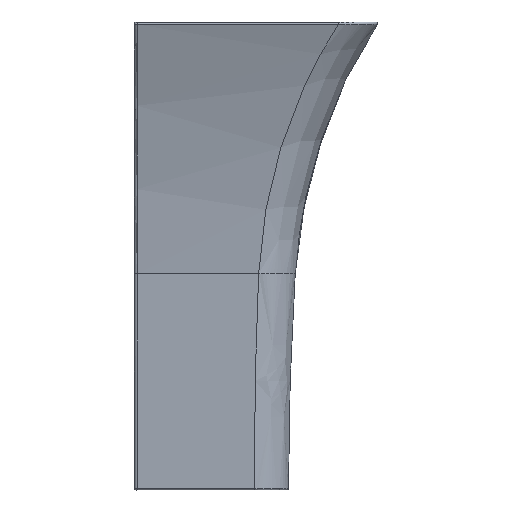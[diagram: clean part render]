
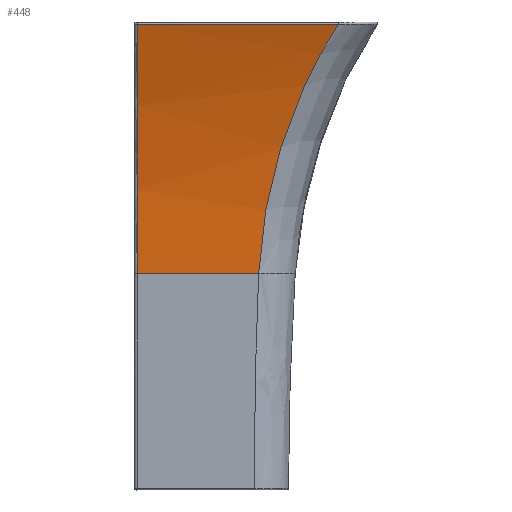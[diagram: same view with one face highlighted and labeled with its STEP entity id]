
A CAD part, left-side view. The second image highlights one B-rep face of the part: STEP entity #448.
In plain terms, the highlighted free-form (B-spline) face has degree [3, 1] with [12, 2] control points.
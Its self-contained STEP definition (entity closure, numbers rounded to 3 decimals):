
#168=B_SPLINE_SURFACE_WITH_KNOTS('',3,1,((#25247,#25248),(#25249,#25250),
(#25251,#25252),(#25253,#25254),(#25255,#25256),(#25257,#25258),(#25259,
#25260),(#25261,#25262),(#25263,#25264),(#25265,#25266),(#25267,#25268),
(#25269,#25270)),.UNSPECIFIED.,.F.,.F.,.F.,(4,2,2,2,2,4),(2,2),(0.,118.307,
236.613,354.92,414.073,473.226),(0.,
366.881),.UNSPECIFIED.);
#448=ADVANCED_FACE('',(#969),#168,.T.);
#969=FACE_OUTER_BOUND('',#1490,.T.);
#1490=EDGE_LOOP('',(#2819,#2820,#2821,#2822,#2823));
#2819=ORIENTED_EDGE('',*,*,#4774,.T.);
#2820=ORIENTED_EDGE('',*,*,#4750,.F.);
#2821=ORIENTED_EDGE('',*,*,#4748,.T.);
#2822=ORIENTED_EDGE('',*,*,#4523,.T.);
#2823=ORIENTED_EDGE('',*,*,#4781,.T.);
#4523=EDGE_CURVE('',#6851,#6975,#6333,.T.);
#4748=EDGE_CURVE('',#6971,#6851,#6387,.T.);
#4750=EDGE_CURVE('',#6971,#6995,#5827,.T.);
#4774=EDGE_CURVE('',#6979,#6995,#5842,.T.);
#4781=EDGE_CURVE('',#6975,#6979,#6399,.T.);
#5827=(
BOUNDED_CURVE()
B_SPLINE_CURVE(3,(#34320,#34321,#34322,#34323,#34324,#34325,#34326),
 .UNSPECIFIED.,.F.,.F.)
B_SPLINE_CURVE_WITH_KNOTS((4,1,1,1,4),(0.,115.051,
231.368,347.714,456.767),.UNSPECIFIED.)
CURVE()
GEOMETRIC_REPRESENTATION_ITEM()
RATIONAL_B_SPLINE_CURVE((1.,1.,1.,1.,1.,1.,
1.))
REPRESENTATION_ITEM('')
);
#5842=(
BOUNDED_CURVE()
B_SPLINE_CURVE(3,(#34474,#34475,#34476,#34477),.UNSPECIFIED.,.F.,.F.)
B_SPLINE_CURVE_WITH_KNOTS((4,4),(2.654,361.881),
 .UNSPECIFIED.)
CURVE()
GEOMETRIC_REPRESENTATION_ITEM()
RATIONAL_B_SPLINE_CURVE((1.,1.,1.,1.))
REPRESENTATION_ITEM('')
);
#6333=B_SPLINE_CURVE_WITH_KNOTS('',3,(#31702,#31703,#31704,#31705,#31706,
#31707,#31708,#31709,#31710,#31711,#31712,#31713),.UNSPECIFIED.,.F.,.F.,
(4,2,2,2,2,4),(-473.226,-414.073,-354.92,-236.613,
-118.307,-4.906),.UNSPECIFIED.);
#6387=B_SPLINE_CURVE_WITH_KNOTS('',1,(#34315,#34316),.UNSPECIFIED.,.F.,
 .F.,(2,2),(8.269,366.881),.UNSPECIFIED.);
#6399=B_SPLINE_CURVE_WITH_KNOTS('',3,(#34528,#34529,#34530,#34531),
 .UNSPECIFIED.,.F.,.F.,(4,4),(-0.006,0.),.UNSPECIFIED.);
#6851=VERTEX_POINT('',#28363);
#6971=VERTEX_POINT('',#28483);
#6975=VERTEX_POINT('',#28487);
#6979=VERTEX_POINT('',#28491);
#6995=VERTEX_POINT('',#28507);
#25247=CARTESIAN_POINT('',(35598.998,0.,-6629.463));
#25248=CARTESIAN_POINT('',(35598.998,-366.881,-6629.463));
#25249=CARTESIAN_POINT('',(35612.098,0.,-6665.442));
#25250=CARTESIAN_POINT('',(35610.899,-345.449,-6661.801));
#25251=CARTESIAN_POINT('',(35623.787,0.,-6701.936));
#25252=CARTESIAN_POINT('',(35621.944,-326.183,-6695.89));
#25253=CARTESIAN_POINT('',(35644.267,0.,-6775.727));
#25254=CARTESIAN_POINT('',(35641.885,-292.217,-6766.852));
#25255=CARTESIAN_POINT('',(35653.058,0.,-6813.025));
#25256=CARTESIAN_POINT('',(35650.782,-277.515,-6803.73));
#25257=CARTESIAN_POINT('',(35667.685,0.,-6888.197));
#25258=CARTESIAN_POINT('',(35665.973,-252.947,-6879.577));
#25259=CARTESIAN_POINT('',(35673.521,0.,-6926.069));
#25260=CARTESIAN_POINT('',(35672.265,-243.082,-6918.55));
#25261=CARTESIAN_POINT('',(35680.03,0.,-6983.134));
#25262=CARTESIAN_POINT('',(35679.388,-232.151,-6978.006));
#25263=CARTESIAN_POINT('',(35681.825,0.,-7002.2));
#25264=CARTESIAN_POINT('',(35681.376,-229.152,-6997.992));
#25265=CARTESIAN_POINT('',(35684.665,0.,-7040.384));
#25266=CARTESIAN_POINT('',(35684.517,-224.484,-7038.178));
#25267=CARTESIAN_POINT('',(35685.71,0.,-7059.504));
#25268=CARTESIAN_POINT('',(35685.671,-222.815,-7058.386));
#25269=CARTESIAN_POINT('',(35686.378,0.,-7078.638));
#25270=CARTESIAN_POINT('',(35686.378,-221.829,-7078.638));
#28363=CARTESIAN_POINT('',(35686.378,-221.829,-7078.638));
#28483=CARTESIAN_POINT('',(35686.378,-5.,-7078.638));
#28487=CARTESIAN_POINT('',(35600.474,-364.226,-6633.495));
#28491=CARTESIAN_POINT('',(35600.472,-364.227,-6633.489));
#28507=CARTESIAN_POINT('',(35600.454,-5.,-6633.481));
#31702=CARTESIAN_POINT('',(35686.378,-221.829,-7078.638));
#31703=CARTESIAN_POINT('',(35685.671,-222.815,-7058.386));
#31704=CARTESIAN_POINT('',(35684.517,-224.484,-7038.178));
#31705=CARTESIAN_POINT('',(35681.376,-229.152,-6997.992));
#31706=CARTESIAN_POINT('',(35679.388,-232.151,-6978.006));
#31707=CARTESIAN_POINT('',(35672.265,-243.082,-6918.55));
#31708=CARTESIAN_POINT('',(35665.973,-252.947,-6879.577));
#31709=CARTESIAN_POINT('',(35650.782,-277.515,-6803.73));
#31710=CARTESIAN_POINT('',(35641.885,-292.217,-6766.852));
#31711=CARTESIAN_POINT('',(35622.358,-325.478,-6697.361));
#31712=CARTESIAN_POINT('',(35611.813,-343.855,-6664.631));
#31713=CARTESIAN_POINT('',(35600.474,-364.226,-6633.495));
#34315=CARTESIAN_POINT('',(35686.378,-5.,-7078.638));
#34316=CARTESIAN_POINT('',(35686.378,-221.829,-7078.638));
#34320=CARTESIAN_POINT('',(35686.378,-5.,-7078.638));
#34321=CARTESIAN_POINT('',(35685.044,-5.,-7040.442));
#34322=CARTESIAN_POINT('',(35679.34,-4.995,-6963.735));
#34323=CARTESIAN_POINT('',(35661.709,-4.994,-6849.487));
#34324=CARTESIAN_POINT('',(35635.547,-5.,-6738.934));
#34325=CARTESIAN_POINT('',(35612.75,-5.002,-6667.557));
#34326=CARTESIAN_POINT('',(35600.454,-5.,-6633.481));
#34474=CARTESIAN_POINT('',(35600.472,-364.227,-6633.489));
#34475=CARTESIAN_POINT('',(35600.465,-244.485,-6633.486));
#34476=CARTESIAN_POINT('',(35600.46,-124.743,-6633.483));
#34477=CARTESIAN_POINT('',(35600.454,-5.,-6633.481));
#34528=CARTESIAN_POINT('',(35600.474,-364.226,-6633.495));
#34529=CARTESIAN_POINT('',(35600.473,-364.227,-6633.493));
#34530=CARTESIAN_POINT('',(35600.473,-364.227,-6633.491));
#34531=CARTESIAN_POINT('',(35600.472,-364.227,-6633.489));
